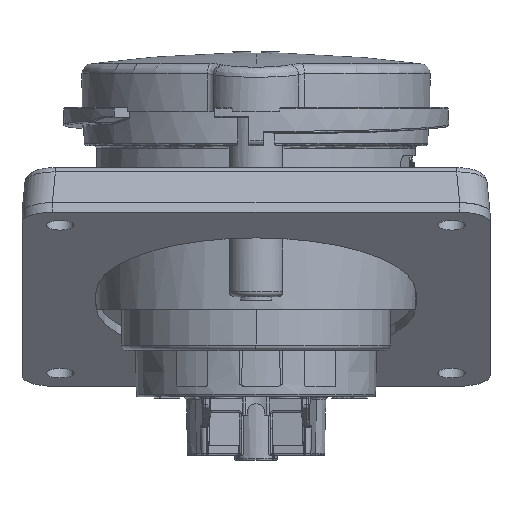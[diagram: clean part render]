
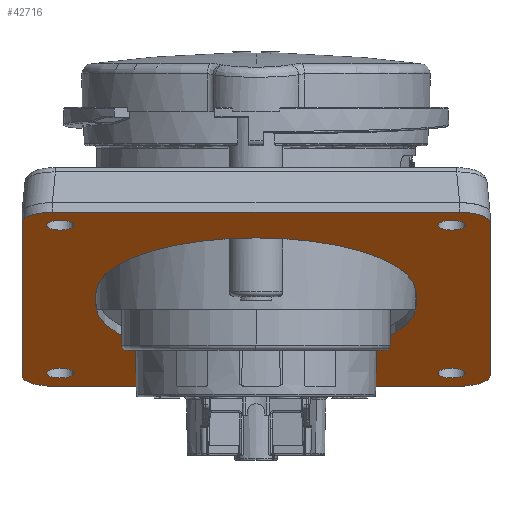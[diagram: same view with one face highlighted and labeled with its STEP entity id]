
A CAD part, front view. The second image highlights one B-rep face of the part: STEP entity #42716.
In plain terms, the highlighted planar face has unit normal (0, -0.342, -0.94).
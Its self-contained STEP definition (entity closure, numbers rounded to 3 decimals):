
#1583=CARTESIAN_POINT('',(-40.,38.783,-16.244));
#1584=DIRECTION('',(0.,0.342,0.94));
#1585=DIRECTION('',(0.,0.94,-0.342));
#1586=AXIS2_PLACEMENT_3D('',#1583,#1584,#1585);
#1591=DIRECTION('',(0.,-0.94,0.342));
#1592=VECTOR('',#1591,88.);
#1593=CARTESIAN_POINT('',(-46.,38.783,-16.244));
#1594=LINE('6496',#1593,#1592);
#1598=CARTESIAN_POINT('',(-40.,-43.91,13.854));
#1599=DIRECTION('',(0.,0.342,0.94));
#1600=DIRECTION('',(-1.,0.,0.));
#1601=AXIS2_PLACEMENT_3D('',#1598,#1599,#1600);
#1606=DIRECTION('',(1.,0.,0.));
#1607=VECTOR('',#1606,80.);
#1608=CARTESIAN_POINT('',(-40.,-49.548,15.906));
#1609=LINE('6498',#1608,#1607);
#1613=CARTESIAN_POINT('',(40.,-43.91,13.854));
#1614=DIRECTION('',(0.,0.342,0.94));
#1615=DIRECTION('',(0.,-0.94,0.342));
#1616=AXIS2_PLACEMENT_3D('',#1613,#1614,#1615);
#1621=DIRECTION('',(0.,0.94,-0.342));
#1622=VECTOR('',#1621,88.);
#1623=CARTESIAN_POINT('',(46.,-43.91,13.854));
#1624=LINE('6500',#1623,#1622);
#1628=CARTESIAN_POINT('',(40.,38.783,-16.244));
#1629=DIRECTION('',(0.,0.342,0.94));
#1630=DIRECTION('',(1.,0.,0.));
#1631=AXIS2_PLACEMENT_3D('',#1628,#1629,#1630);
#1636=DIRECTION('',(-1.,0.,0.));
#1637=VECTOR('',#1636,80.);
#1638=CARTESIAN_POINT('',(40.,44.421,-18.296));
#1639=LINE('6502',#1638,#1637);
#1643=CARTESIAN_POINT('',(-38.5,37.374,-15.731));
#1644=DIRECTION('',(0.,-0.342,-0.94));
#1645=DIRECTION('',(1.,0.,0.));
#1646=AXIS2_PLACEMENT_3D('',#1643,#1644,#1645);
#1651=CARTESIAN_POINT('',(-38.5,37.374,-15.731));
#1652=DIRECTION('',(0.,-0.342,-0.94));
#1653=DIRECTION('',(-1.,0.,0.));
#1654=AXIS2_PLACEMENT_3D('',#1651,#1652,#1653);
#1659=CARTESIAN_POINT('',(38.5,37.374,-15.731));
#1660=DIRECTION('',(0.,-0.342,-0.94));
#1661=DIRECTION('',(1.,0.,0.));
#1662=AXIS2_PLACEMENT_3D('',#1659,#1660,#1661);
#1667=CARTESIAN_POINT('',(38.5,37.374,-15.731));
#1668=DIRECTION('',(0.,-0.342,-0.94));
#1669=DIRECTION('',(-1.,0.,0.));
#1670=AXIS2_PLACEMENT_3D('',#1667,#1668,#1669);
#1675=CARTESIAN_POINT('',(38.5,-42.5,13.341));
#1676=DIRECTION('',(0.,-0.342,-0.94));
#1677=DIRECTION('',(1.,0.,0.));
#1678=AXIS2_PLACEMENT_3D('',#1675,#1676,#1677);
#1683=CARTESIAN_POINT('',(38.5,-42.5,13.341));
#1684=DIRECTION('',(0.,-0.342,-0.94));
#1685=DIRECTION('',(-1.,0.,0.));
#1686=AXIS2_PLACEMENT_3D('',#1683,#1684,#1685);
#1691=CARTESIAN_POINT('',(-38.5,-42.5,13.341));
#1692=DIRECTION('',(0.,-0.342,-0.94));
#1693=DIRECTION('',(1.,0.,0.));
#1694=AXIS2_PLACEMENT_3D('',#1691,#1692,#1693);
#1699=CARTESIAN_POINT('',(-38.5,-42.5,13.341));
#1700=DIRECTION('',(0.,-0.342,-0.94));
#1701=DIRECTION('',(-1.,0.,0.));
#1702=AXIS2_PLACEMENT_3D('',#1699,#1700,#1701);
#1707=DIRECTION('',(0.,-0.94,0.342));
#1708=VECTOR('',#1707,7.5);
#1709=CARTESIAN_POINT('',(31.5,0.96,-2.478));
#1710=LINE('6503',#1709,#1708);
#1714=CARTESIAN_POINT('',(0.,-6.087,0.087));
#1715=DIRECTION('',(0.,-0.342,-0.94));
#1716=DIRECTION('',(1.,0.,0.));
#1717=AXIS2_PLACEMENT_3D('',#1714,#1715,#1716);
#1722=DIRECTION('',(0.,0.94,-0.342));
#1723=VECTOR('',#1722,7.5);
#1724=CARTESIAN_POINT('',(-31.5,-6.087,0.087));
#1725=LINE('6505',#1724,#1723);
#1729=CARTESIAN_POINT('',(0.,0.96,-2.478));
#1730=DIRECTION('',(0.,-0.342,-0.94));
#1731=DIRECTION('',(-1.,0.,0.));
#1732=AXIS2_PLACEMENT_3D('',#1729,#1730,#1731);
#40765=CARTESIAN_POINT('',(-35.75,37.374,-15.731));
#40766=CARTESIAN_POINT('',(-41.25,37.374,-15.731));
#40767=VERTEX_POINT('',#40765);
#40768=VERTEX_POINT('',#40766);
#40769=CARTESIAN_POINT('',(41.25,37.374,-15.731));
#40770=CARTESIAN_POINT('',(35.75,37.374,-15.731));
#40771=VERTEX_POINT('',#40769);
#40772=VERTEX_POINT('',#40770);
#40773=CARTESIAN_POINT('',(41.25,-42.5,13.341));
#40774=CARTESIAN_POINT('',(35.75,-42.5,13.341));
#40775=VERTEX_POINT('',#40773);
#40776=VERTEX_POINT('',#40774);
#40777=CARTESIAN_POINT('',(-35.75,-42.5,13.341));
#40778=CARTESIAN_POINT('',(-41.25,-42.5,13.341));
#40779=VERTEX_POINT('',#40777);
#40780=VERTEX_POINT('',#40778);
#40781=CARTESIAN_POINT('',(-40.,44.421,-18.296));
#40782=CARTESIAN_POINT('',(-46.,38.783,-16.244));
#40783=VERTEX_POINT('',#40781);
#40784=VERTEX_POINT('',#40782);
#40785=CARTESIAN_POINT('',(-46.,-43.91,13.854));
#40786=VERTEX_POINT('',#40785);
#40787=CARTESIAN_POINT('',(-40.,-49.548,15.906));
#40788=VERTEX_POINT('',#40787);
#40789=CARTESIAN_POINT('',(40.,-49.548,15.906));
#40790=VERTEX_POINT('',#40789);
#40791=CARTESIAN_POINT('',(46.,-43.91,13.854));
#40792=VERTEX_POINT('',#40791);
#40793=CARTESIAN_POINT('',(46.,38.783,-16.244));
#40794=VERTEX_POINT('',#40793);
#40795=CARTESIAN_POINT('',(40.,44.421,-18.296));
#40796=VERTEX_POINT('',#40795);
#40797=CARTESIAN_POINT('',(31.5,0.96,-2.478));
#40798=CARTESIAN_POINT('',(31.5,-6.087,0.087));
#40799=VERTEX_POINT('',#40797);
#40800=VERTEX_POINT('',#40798);
#40801=CARTESIAN_POINT('',(-31.5,-6.087,0.087));
#40802=VERTEX_POINT('',#40801);
#40803=CARTESIAN_POINT('',(-31.5,0.96,-2.478));
#40804=VERTEX_POINT('',#40803);
#42664=CARTESIAN_POINT('',(0.,-2.563,-1.195));
#42665=DIRECTION('',(0.,0.342,0.94));
#42666=DIRECTION('',(1.,0.,0.));
#42667=AXIS2_PLACEMENT_3D('',#42664,#42665,#42666);
#42668=PLANE('1942',#42667);
#42669=ORIENTED_EDGE('6495',*,*,#41924,.T.);
#42671=ORIENTED_EDGE('6496',*,*,#42670,.T.);
#42672=ORIENTED_EDGE('6497',*,*,#42169,.T.);
#42674=ORIENTED_EDGE('6498',*,*,#42673,.T.);
#42675=ORIENTED_EDGE('6499',*,*,#42426,.T.);
#42677=ORIENTED_EDGE('6500',*,*,#42676,.T.);
#42678=ORIENTED_EDGE('6501',*,*,#42620,.T.);
#42679=ORIENTED_EDGE('6502',*,*,#42646,.T.);
#42680=EDGE_LOOP('1942',(#42669,#42671,#42672,#42674,#42675,#42677,#42678,
#42679));
#42681=FACE_OUTER_BOUND('1942',#42680,.F.);
#42683=ORIENTED_EDGE('6487',*,*,#42682,.T.);
#42685=ORIENTED_EDGE('6488',*,*,#42684,.T.);
#42686=EDGE_LOOP('1942',(#42683,#42685));
#42687=FACE_BOUND('1942',#42686,.F.);
#42689=ORIENTED_EDGE('6489',*,*,#42688,.T.);
#42691=ORIENTED_EDGE('6490',*,*,#42690,.T.);
#42692=EDGE_LOOP('1942',(#42689,#42691));
#42693=FACE_BOUND('1942',#42692,.F.);
#42695=ORIENTED_EDGE('6491',*,*,#42694,.T.);
#42697=ORIENTED_EDGE('6492',*,*,#42696,.T.);
#42698=EDGE_LOOP('1942',(#42695,#42697));
#42699=FACE_BOUND('1942',#42698,.F.);
#42701=ORIENTED_EDGE('6493',*,*,#42700,.T.);
#42703=ORIENTED_EDGE('6494',*,*,#42702,.T.);
#42704=EDGE_LOOP('1942',(#42701,#42703));
#42705=FACE_BOUND('1942',#42704,.F.);
#42707=ORIENTED_EDGE('6503',*,*,#42706,.T.);
#42709=ORIENTED_EDGE('6504',*,*,#42708,.T.);
#42711=ORIENTED_EDGE('6505',*,*,#42710,.T.);
#42713=ORIENTED_EDGE('6506',*,*,#42712,.T.);
#42714=EDGE_LOOP('1942',(#42707,#42709,#42711,#42713));
#42715=FACE_BOUND('1942',#42714,.F.);
#1587=CIRCLE('6495',#1586,6.);
#1602=CIRCLE('6497',#1601,6.);
#1617=CIRCLE('6499',#1616,6.);
#1632=CIRCLE('6501',#1631,6.);
#1647=CIRCLE('6487',#1646,2.75);
#1655=CIRCLE('6488',#1654,2.75);
#1663=CIRCLE('6489',#1662,2.75);
#1671=CIRCLE('6490',#1670,2.75);
#1679=CIRCLE('6491',#1678,2.75);
#1687=CIRCLE('6492',#1686,2.75);
#1695=CIRCLE('6493',#1694,2.75);
#1703=CIRCLE('6494',#1702,2.75);
#1718=CIRCLE('6504',#1717,31.5);
#1733=CIRCLE('6506',#1732,31.5);
#41924=EDGE_CURVE('6495',#40783,#40784,#1587,.T.);
#42169=EDGE_CURVE('6497',#40786,#40788,#1602,.T.);
#42426=EDGE_CURVE('6499',#40790,#40792,#1617,.T.);
#42620=EDGE_CURVE('6501',#40794,#40796,#1632,.T.);
#42646=EDGE_CURVE('6502',#40796,#40783,#1639,.T.);
#42670=EDGE_CURVE('6496',#40784,#40786,#1594,.T.);
#42673=EDGE_CURVE('6498',#40788,#40790,#1609,.T.);
#42676=EDGE_CURVE('6500',#40792,#40794,#1624,.T.);
#42682=EDGE_CURVE('6487',#40767,#40768,#1647,.T.);
#42684=EDGE_CURVE('6488',#40768,#40767,#1655,.T.);
#42688=EDGE_CURVE('6489',#40771,#40772,#1663,.T.);
#42690=EDGE_CURVE('6490',#40772,#40771,#1671,.T.);
#42694=EDGE_CURVE('6491',#40775,#40776,#1679,.T.);
#42696=EDGE_CURVE('6492',#40776,#40775,#1687,.T.);
#42700=EDGE_CURVE('6493',#40779,#40780,#1695,.T.);
#42702=EDGE_CURVE('6494',#40780,#40779,#1703,.T.);
#42706=EDGE_CURVE('6503',#40799,#40800,#1710,.T.);
#42708=EDGE_CURVE('6504',#40800,#40802,#1718,.T.);
#42710=EDGE_CURVE('6505',#40802,#40804,#1725,.T.);
#42712=EDGE_CURVE('6506',#40804,#40799,#1733,.T.);
#42716=ADVANCED_FACE('1942',(#42681,#42687,#42693,#42699,#42705,#42715),#42668,
.F.);
